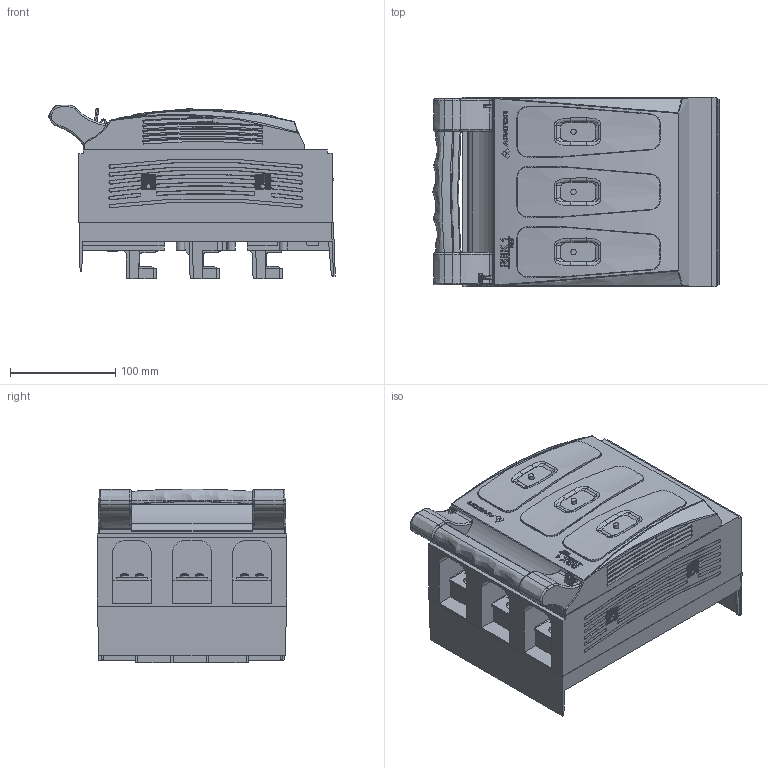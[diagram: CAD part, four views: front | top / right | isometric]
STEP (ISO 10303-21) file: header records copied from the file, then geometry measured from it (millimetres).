
FILE_DESCRIPTION(/* description */ (''),/* implementation_level */ '2;1');
FILE_NAME(/* name */ 'RBK 1 pro-SG-60 - 63-811750-011.stp',/* time_stamp */ '2019-03-15T14:45:24+01:00',/* author */ (''),/* organization */ (''),/* preprocessor_version */ 'ST-DEVELOPER v16',/* originating_system */ 'SIEMENS PLM Software NX 10.0',/* authorisation */ '');
FILE_SCHEMA (('AUTOMOTIVE_DESIGN { 1 0 10303 214 3 1 1 1 }'));
Products named in the file (1): 710_2014EB00ecby
Bounding box: 271.86 x 180 x 165 mm (x, y, z)
Surface area: 313100.9 mm2
Topology: 13 solids, 14 shells, 2566 faces, 6887 edges, 4388 vertices
Faces by surface type: plane 1627, cylinder 307, bspline 305, cone 145, torus 82, extrusion 52, sphere 30, revolution 18
Full cylindrical faces by diameter (mm): 4.5 x3, 11 x3
Entity records: 97089 total; most frequent: CARTESIAN_POINT 32314, ORIENTED_EDGE 13580, DIRECTION 12640, EDGE_CURVE 6790, AXIS2_PLACEMENT_3D 4592, VERTEX_POINT 4372, VECTOR 3434, LINE 3382
